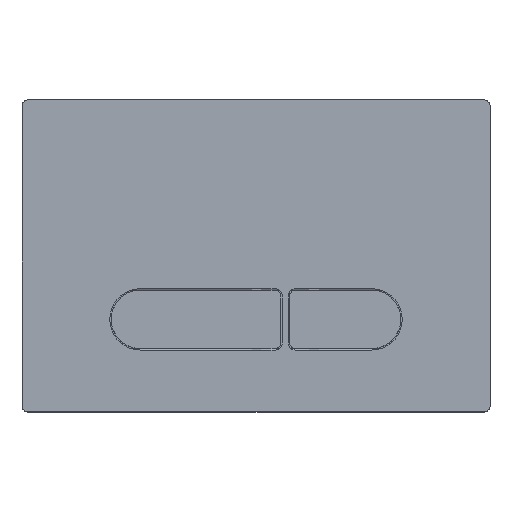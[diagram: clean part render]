
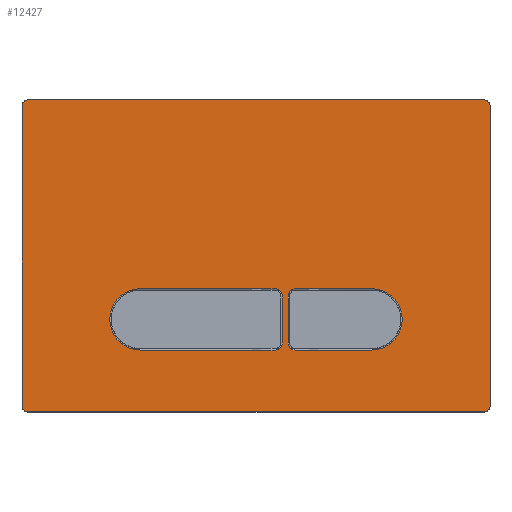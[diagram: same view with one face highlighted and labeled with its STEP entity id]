
A CAD part, top view. The second image highlights one B-rep face of the part: STEP entity #12427.
In plain terms, the highlighted planar face has unit normal (0, 0, 1).
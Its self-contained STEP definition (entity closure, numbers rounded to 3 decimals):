
#1=CARTESIAN_POINT('',(-117.,-77.,0.));
#2=DIRECTION('',(0.,0.,1.));
#3=DIRECTION('',(-1.,0.,0.));
#4=AXIS2_PLACEMENT_3D('',#1,#2,#3);
#6=CARTESIAN_POINT('',(-117.,77.,0.));
#7=DIRECTION('',(0.,0.,1.));
#8=DIRECTION('',(0.,1.,0.));
#9=AXIS2_PLACEMENT_3D('',#6,#7,#8);
#11=CARTESIAN_POINT('',(117.,77.,0.));
#12=DIRECTION('',(0.,0.,1.));
#13=DIRECTION('',(1.,0.,0.));
#14=AXIS2_PLACEMENT_3D('',#11,#12,#13);
#16=CARTESIAN_POINT('',(117.,-77.,0.));
#17=DIRECTION('',(0.,0.,1.));
#18=DIRECTION('',(0.,-1.,0.));
#19=AXIS2_PLACEMENT_3D('',#16,#17,#18);
#21=CARTESIAN_POINT('',(20.25,-44.5,0.));
#22=DIRECTION('',(0.,0.,-1.));
#23=DIRECTION('',(0.,-1.,0.));
#24=AXIS2_PLACEMENT_3D('',#21,#22,#23);
#26=CARTESIAN_POINT('',(59.25,-32.5,0.));
#27=DIRECTION('',(0.,0.,-1.));
#28=DIRECTION('',(0.,1.,0.));
#29=AXIS2_PLACEMENT_3D('',#26,#27,#28);
#31=CARTESIAN_POINT('',(20.25,-20.5,0.));
#32=DIRECTION('',(0.,0.,-1.));
#33=DIRECTION('',(-1.,0.,0.));
#34=AXIS2_PLACEMENT_3D('',#31,#32,#33);
#36=CARTESIAN_POINT('',(-59.25,-32.5,0.));
#37=DIRECTION('',(0.,0.,-1.));
#38=DIRECTION('',(0.,-1.,0.));
#39=AXIS2_PLACEMENT_3D('',#36,#37,#38);
#41=CARTESIAN_POINT('',(9.75,-44.5,0.));
#42=DIRECTION('',(0.,0.,-1.));
#43=DIRECTION('',(1.,0.,0.));
#44=AXIS2_PLACEMENT_3D('',#41,#42,#43);
#46=CARTESIAN_POINT('',(9.75,-20.5,0.));
#47=DIRECTION('',(0.,0.,-1.));
#48=DIRECTION('',(0.,1.,0.));
#49=AXIS2_PLACEMENT_3D('',#46,#47,#48);
#59=DIRECTION('',(0.,1.,0.));
#60=VECTOR('',#59,154.);
#61=CARTESIAN_POINT('',(-120.,-77.,0.));
#62=LINE('',#61,#60);
#71=DIRECTION('',(1.,0.,0.));
#72=VECTOR('',#71,234.);
#73=CARTESIAN_POINT('',(-117.,80.,0.));
#74=LINE('',#73,#72);
#83=DIRECTION('',(0.,-1.,0.));
#84=VECTOR('',#83,154.);
#85=CARTESIAN_POINT('',(120.,77.,0.));
#86=LINE('',#85,#84);
#95=DIRECTION('',(-1.,0.,0.));
#96=VECTOR('',#95,234.);
#97=CARTESIAN_POINT('',(117.,-80.,0.));
#98=LINE('',#97,#96);
#483=DIRECTION('',(1.,0.,0.));
#484=VECTOR('',#483,39.);
#485=CARTESIAN_POINT('',(20.25,-48.25,0.));
#486=LINE('',#485,#484);
#495=DIRECTION('',(-1.,0.,0.));
#496=VECTOR('',#495,39.);
#497=CARTESIAN_POINT('',(59.25,-16.75,0.));
#498=LINE('',#497,#496);
#507=DIRECTION('',(0.,-1.,0.));
#508=VECTOR('',#507,24.);
#509=CARTESIAN_POINT('',(16.5,-20.5,0.));
#510=LINE('',#509,#508);
#8857=DIRECTION('',(-1.,0.,0.));
#8858=VECTOR('',#8857,69.);
#8859=CARTESIAN_POINT('',(9.75,-16.75,0.));
#8860=LINE('',#8859,#8858);
#8869=DIRECTION('',(1.,0.,0.));
#8870=VECTOR('',#8869,69.);
#8871=CARTESIAN_POINT('',(-59.25,-48.25,0.));
#8872=LINE('',#8871,#8870);
#8881=DIRECTION('',(0.,1.,0.));
#8882=VECTOR('',#8881,24.);
#8883=CARTESIAN_POINT('',(13.5,-44.5,0.));
#8884=LINE('',#8883,#8882);
#9660=CARTESIAN_POINT('',(16.5,-20.5,0.));
#9661=CARTESIAN_POINT('',(16.5,-44.5,0.));
#9662=VERTEX_POINT('',#9660);
#9663=VERTEX_POINT('',#9661);
#9664=CARTESIAN_POINT('',(20.25,-16.75,0.));
#9665=VERTEX_POINT('',#9664);
#9666=CARTESIAN_POINT('',(59.25,-16.75,0.));
#9667=VERTEX_POINT('',#9666);
#9668=CARTESIAN_POINT('',(59.25,-48.25,0.));
#9669=VERTEX_POINT('',#9668);
#9670=CARTESIAN_POINT('',(20.25,-48.25,0.));
#9671=VERTEX_POINT('',#9670);
#9672=CARTESIAN_POINT('',(-59.25,-48.25,0.));
#9673=CARTESIAN_POINT('',(-59.25,-16.75,0.));
#9674=VERTEX_POINT('',#9672);
#9675=VERTEX_POINT('',#9673);
#9676=CARTESIAN_POINT('',(9.75,-16.75,0.));
#9677=VERTEX_POINT('',#9676);
#9678=CARTESIAN_POINT('',(13.5,-20.5,0.));
#9679=VERTEX_POINT('',#9678);
#9680=CARTESIAN_POINT('',(13.5,-44.5,0.));
#9681=VERTEX_POINT('',#9680);
#9682=CARTESIAN_POINT('',(9.75,-48.25,0.));
#9683=VERTEX_POINT('',#9682);
#9684=CARTESIAN_POINT('',(-120.,-77.,0.));
#9685=CARTESIAN_POINT('',(-117.,-80.,0.));
#9686=VERTEX_POINT('',#9684);
#9687=VERTEX_POINT('',#9685);
#9688=CARTESIAN_POINT('',(117.,-80.,0.));
#9689=VERTEX_POINT('',#9688);
#9690=CARTESIAN_POINT('',(120.,-77.,0.));
#9691=VERTEX_POINT('',#9690);
#9692=CARTESIAN_POINT('',(120.,77.,0.));
#9693=VERTEX_POINT('',#9692);
#9694=CARTESIAN_POINT('',(117.,80.,0.));
#9695=VERTEX_POINT('',#9694);
#9696=CARTESIAN_POINT('',(-117.,80.,0.));
#9697=VERTEX_POINT('',#9696);
#9698=CARTESIAN_POINT('',(-120.,77.,0.));
#9699=VERTEX_POINT('',#9698);
#12376=CARTESIAN_POINT('',(-117.,-77.,0.));
#12377=DIRECTION('',(0.,0.,1.));
#12378=DIRECTION('',(1.,0.,0.));
#12379=AXIS2_PLACEMENT_3D('',#12376,#12377,#12378);
#12380=PLANE('',#12379);
#12382=ORIENTED_EDGE('',*,*,#12381,.F.);
#12384=ORIENTED_EDGE('',*,*,#12383,.T.);
#12386=ORIENTED_EDGE('',*,*,#12385,.F.);
#12388=ORIENTED_EDGE('',*,*,#12387,.T.);
#12390=ORIENTED_EDGE('',*,*,#12389,.F.);
#12392=ORIENTED_EDGE('',*,*,#12391,.T.);
#12394=ORIENTED_EDGE('',*,*,#12393,.F.);
#12396=ORIENTED_EDGE('',*,*,#12395,.T.);
#12397=EDGE_LOOP('',(#12382,#12384,#12386,#12388,#12390,#12392,#12394,#12396));
#12398=FACE_OUTER_BOUND('',#12397,.F.);
#12400=ORIENTED_EDGE('',*,*,#12399,.T.);
#12402=ORIENTED_EDGE('',*,*,#12401,.F.);
#12404=ORIENTED_EDGE('',*,*,#12403,.T.);
#12406=ORIENTED_EDGE('',*,*,#12405,.F.);
#12408=ORIENTED_EDGE('',*,*,#12407,.T.);
#12410=ORIENTED_EDGE('',*,*,#12409,.F.);
#12411=EDGE_LOOP('',(#12400,#12402,#12404,#12406,#12408,#12410));
#12412=FACE_BOUND('',#12411,.F.);
#12414=ORIENTED_EDGE('',*,*,#12413,.F.);
#12416=ORIENTED_EDGE('',*,*,#12415,.T.);
#12418=ORIENTED_EDGE('',*,*,#12417,.F.);
#12420=ORIENTED_EDGE('',*,*,#12419,.T.);
#12422=ORIENTED_EDGE('',*,*,#12421,.F.);
#12424=ORIENTED_EDGE('',*,*,#12423,.T.);
#12425=EDGE_LOOP('',(#12414,#12416,#12418,#12420,#12422,#12424));
#12426=FACE_BOUND('',#12425,.F.);
#12427=ADVANCED_FACE('',(#12398,#12412,#12426),#12380,.T.);
#5=CIRCLE('',#4,3.);
#10=CIRCLE('',#9,3.);
#15=CIRCLE('',#14,3.);
#20=CIRCLE('',#19,3.);
#25=CIRCLE('',#24,3.75);
#30=CIRCLE('',#29,15.75);
#35=CIRCLE('',#34,3.75);
#40=CIRCLE('',#39,15.75);
#45=CIRCLE('',#44,3.75);
#50=CIRCLE('',#49,3.75);
#12381=EDGE_CURVE('',#9686,#9687,#5,.T.);
#12383=EDGE_CURVE('',#9686,#9699,#62,.T.);
#12385=EDGE_CURVE('',#9697,#9699,#10,.T.);
#12387=EDGE_CURVE('',#9697,#9695,#74,.T.);
#12389=EDGE_CURVE('',#9693,#9695,#15,.T.);
#12391=EDGE_CURVE('',#9693,#9691,#86,.T.);
#12393=EDGE_CURVE('',#9689,#9691,#20,.T.);
#12395=EDGE_CURVE('',#9689,#9687,#98,.T.);
#12399=EDGE_CURVE('',#9662,#9663,#510,.T.);
#12401=EDGE_CURVE('',#9671,#9663,#25,.T.);
#12403=EDGE_CURVE('',#9671,#9669,#486,.T.);
#12405=EDGE_CURVE('',#9667,#9669,#30,.T.);
#12407=EDGE_CURVE('',#9667,#9665,#498,.T.);
#12409=EDGE_CURVE('',#9662,#9665,#35,.T.);
#12413=EDGE_CURVE('',#9674,#9675,#40,.T.);
#12415=EDGE_CURVE('',#9674,#9683,#8872,.T.);
#12417=EDGE_CURVE('',#9681,#9683,#45,.T.);
#12419=EDGE_CURVE('',#9681,#9679,#8884,.T.);
#12421=EDGE_CURVE('',#9677,#9679,#50,.T.);
#12423=EDGE_CURVE('',#9677,#9675,#8860,.T.);
